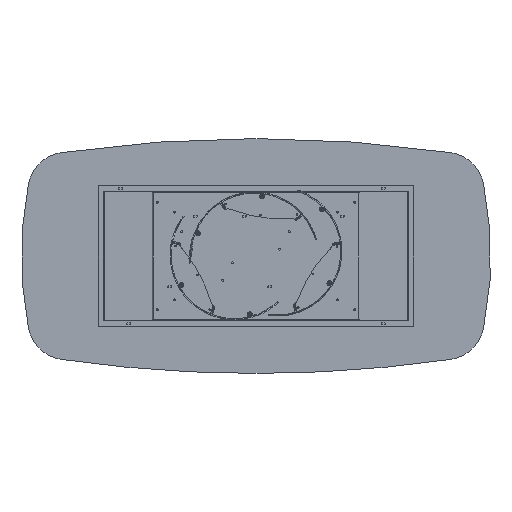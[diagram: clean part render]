
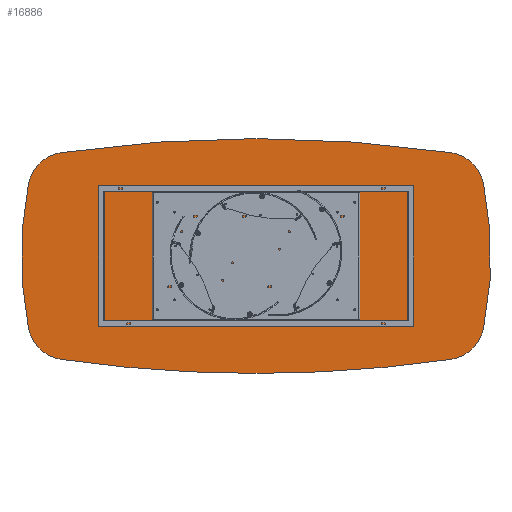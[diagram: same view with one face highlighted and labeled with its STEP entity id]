
A CAD part, front view. The second image highlights one B-rep face of the part: STEP entity #16886.
In plain terms, the highlighted planar face has unit normal (0, -1, 0).
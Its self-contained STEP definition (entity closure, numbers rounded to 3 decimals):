
#24 = DIRECTION ( 'NONE',  ( 0., 1., 0. ) ) ;
#126 = DIRECTION ( 'NONE',  ( 0., 0., 1. ) ) ;
#141 = EDGE_CURVE ( 'NONE', #18534, #8580, #571, .T. ) ;
#285 = DIRECTION ( 'NONE',  ( 0., 1., 0. ) ) ;
#362 = DIRECTION ( 'NONE',  ( 0., 0., 1. ) ) ;
#520 = AXIS2_PLACEMENT_3D ( 'NONE', #15181, #11694, #1834 ) ;
#571 = CIRCLE ( 'NONE', #13040, 6950. ) ;
#573 = ORIENTED_EDGE ( 'NONE', *, *, #20158, .T. ) ;
#1223 = DIRECTION ( 'NONE',  ( 0., -1., 0. ) ) ;
#1834 = DIRECTION ( 'NONE',  ( 0., 0., 1. ) ) ;
#1963 = AXIS2_PLACEMENT_3D ( 'NONE', #14905, #24, #13264 ) ;
#2007 = ORIENTED_EDGE ( 'NONE', *, *, #141, .F. ) ;
#2274 = VERTEX_POINT ( 'NONE', #12831 ) ;
#2379 = DIRECTION ( 'NONE',  ( 0., 0., 1. ) ) ;
#2470 = EDGE_CURVE ( 'NONE', #4534, #18534, #21364, .T. ) ;
#2703 = EDGE_CURVE ( 'NONE', #10936, #19842, #6089, .T. ) ;
#3443 = DIRECTION ( 'NONE',  ( 0., 1., 0. ) ) ;
#3747 = DIRECTION ( 'NONE',  ( 0., 0., 1. ) ) ;
#4167 = ORIENTED_EDGE ( 'NONE', *, *, #2470, .F. ) ;
#4534 = VERTEX_POINT ( 'NONE', #9208 ) ;
#4563 = CIRCLE ( 'NONE', #9437, 1845. ) ;
#5186 = CARTESIAN_POINT ( 'NONE',  ( -995.103, 0., -528.391 ) ) ;
#5356 = CARTESIAN_POINT ( 'NONE',  ( 0., 0., -600. ) ) ;
#5491 = ORIENTED_EDGE ( 'NONE', *, *, #2703, .F. ) ;
#6069 = AXIS2_PLACEMENT_3D ( 'NONE', #11664, #285, #3747 ) ;
#6089 = CIRCLE ( 'NONE', #12349, 1845. ) ;
#6260 = CARTESIAN_POINT ( 'NONE',  ( -322.5, 0., 3175. ) ) ;
#6412 = CARTESIAN_POINT ( 'NONE',  ( 966.467, 0., -330.452 ) ) ;
#6429 = EDGE_CURVE ( 'NONE', #4534, #19842, #19693, .T. ) ;
#6477 = CARTESIAN_POINT ( 'NONE',  ( -645., 0., 0. ) ) ;
#7221 = CARTESIAN_POINT ( 'NONE',  ( 995.103, 0., 528.391 ) ) ;
#7780 = CIRCLE ( 'NONE', #17156, 200. ) ;
#7916 = DIRECTION ( 'NONE',  ( 0., -1., 0. ) ) ;
#8126 = CIRCLE ( 'NONE', #520, 200. ) ;
#8132 = DIRECTION ( 'NONE',  ( 0., 0., 1. ) ) ;
#8580 = VERTEX_POINT ( 'NONE', #5186 ) ;
#8968 = ORIENTED_EDGE ( 'NONE', *, *, #21176, .F. ) ;
#9068 = EDGE_LOOP ( 'NONE', ( #8968, #15300, #17473, #573, #2007, #4167, #14843, #5491, #19911 ) ) ;
#9116 = AXIS2_PLACEMENT_3D ( 'NONE', #6260, #18408, #15277 ) ;
#9208 = CARTESIAN_POINT ( 'NONE',  ( 995.103, 0., -528.391 ) ) ;
#9437 = AXIS2_PLACEMENT_3D ( 'NONE', #20200, #13689, #126 ) ;
#9520 = FACE_OUTER_BOUND ( 'NONE', #9068, .T. ) ;
#10061 = CARTESIAN_POINT ( 'NONE',  ( -1162.39, 0., -370.629 ) ) ;
#10424 = CARTESIAN_POINT ( 'NONE',  ( -995.103, 0., 528.391 ) ) ;
#10677 = AXIS2_PLACEMENT_3D ( 'NONE', #6412, #1223, #21406 ) ;
#10936 = VERTEX_POINT ( 'NONE', #17493 ) ;
#11150 = CARTESIAN_POINT ( 'NONE',  ( 1162.39, 0., -370.629 ) ) ;
#11504 = AXIS2_PLACEMENT_3D ( 'NONE', #14160, #7916, #8132 ) ;
#11612 = VERTEX_POINT ( 'NONE', #7221 ) ;
#11664 = CARTESIAN_POINT ( 'NONE',  ( 0., 0., -6350. ) ) ;
#11694 = DIRECTION ( 'NONE',  ( 0., -1., 0. ) ) ;
#12349 = AXIS2_PLACEMENT_3D ( 'NONE', #6477, #3443, #18195 ) ;
#12753 = EDGE_CURVE ( 'NONE', #18185, #2274, #4563, .T. ) ;
#12763 = VERTEX_POINT ( 'NONE', #10424 ) ;
#12831 = CARTESIAN_POINT ( 'NONE',  ( -1162.39, 0., 370.629 ) ) ;
#13040 = AXIS2_PLACEMENT_3D ( 'NONE', #15445, #13274, #362 ) ;
#13264 = DIRECTION ( 'NONE',  ( 0., 0., 1. ) ) ;
#13274 = DIRECTION ( 'NONE',  ( 0., 1., 0. ) ) ;
#13689 = DIRECTION ( 'NONE',  ( 0., 1., 0. ) ) ;
#14160 = CARTESIAN_POINT ( 'NONE',  ( 966.467, 0., 330.452 ) ) ;
#14406 = CIRCLE ( 'NONE', #6069, 6950. ) ;
#14843 = ORIENTED_EDGE ( 'NONE', *, *, #6429, .T. ) ;
#14905 = CARTESIAN_POINT ( 'NONE',  ( 0., 0., 6350. ) ) ;
#15181 = CARTESIAN_POINT ( 'NONE',  ( -966.467, 0., 330.452 ) ) ;
#15277 = DIRECTION ( 'NONE',  ( 0., 0., 1. ) ) ;
#15300 = ORIENTED_EDGE ( 'NONE', *, *, #20012, .T. ) ;
#15445 = CARTESIAN_POINT ( 'NONE',  ( 0., 0., 6350. ) ) ;
#16886 = ADVANCED_FACE ( 'NONE', ( #9520 ), #21142, .F. ) ;
#17156 = AXIS2_PLACEMENT_3D ( 'NONE', #17722, #17831, #2379 ) ;
#17473 = ORIENTED_EDGE ( 'NONE', *, *, #12753, .F. ) ;
#17493 = CARTESIAN_POINT ( 'NONE',  ( 1162.39, 0., 370.629 ) ) ;
#17696 = EDGE_CURVE ( 'NONE', #10936, #11612, #21227, .T. ) ;
#17722 = CARTESIAN_POINT ( 'NONE',  ( -966.467, 0., -330.452 ) ) ;
#17831 = DIRECTION ( 'NONE',  ( 0., -1., 0. ) ) ;
#18185 = VERTEX_POINT ( 'NONE', #10061 ) ;
#18195 = DIRECTION ( 'NONE',  ( 0., 0., 1. ) ) ;
#18408 = DIRECTION ( 'NONE',  ( 0., 1., 0. ) ) ;
#18534 = VERTEX_POINT ( 'NONE', #5356 ) ;
#19693 = CIRCLE ( 'NONE', #10677, 200. ) ;
#19842 = VERTEX_POINT ( 'NONE', #11150 ) ;
#19911 = ORIENTED_EDGE ( 'NONE', *, *, #17696, .T. ) ;
#20012 = EDGE_CURVE ( 'NONE', #12763, #2274, #8126, .T. ) ;
#20158 = EDGE_CURVE ( 'NONE', #18185, #8580, #7780, .T. ) ;
#20200 = CARTESIAN_POINT ( 'NONE',  ( 645., 0., 0. ) ) ;
#21142 = PLANE ( 'NONE',  #9116 ) ;
#21176 = EDGE_CURVE ( 'NONE', #12763, #11612, #14406, .T. ) ;
#21227 = CIRCLE ( 'NONE', #11504, 200. ) ;
#21364 = CIRCLE ( 'NONE', #1963, 6950. ) ;
#21406 = DIRECTION ( 'NONE',  ( 0., 0., 1. ) ) ;
